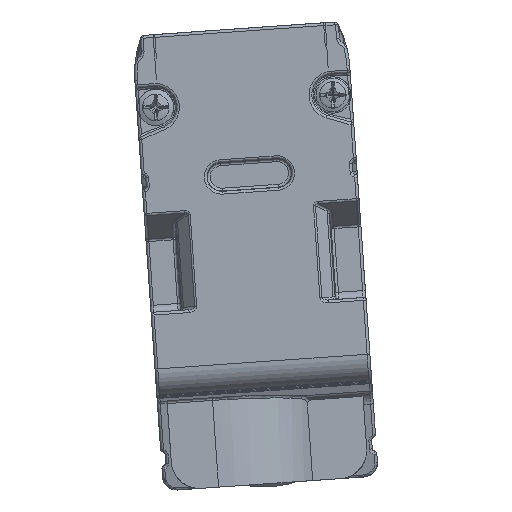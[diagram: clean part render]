
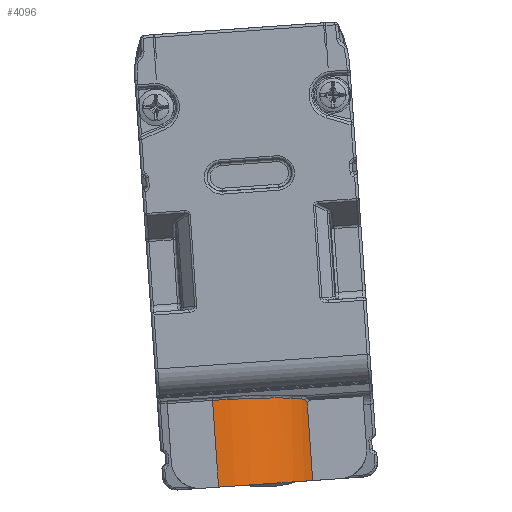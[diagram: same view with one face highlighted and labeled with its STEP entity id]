
A CAD part, front view. The second image highlights one B-rep face of the part: STEP entity #4096.
In plain terms, the highlighted cylindrical face has radius 7.5 mm (diameter 15 mm), a partial arc.
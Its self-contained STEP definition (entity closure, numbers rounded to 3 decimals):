
#753=ELLIPSE('',#24183,7.53,7.5);
#1221=B_SPLINE_CURVE_WITH_KNOTS('',3,(#43533,#43534,#43535,#43536,#43537,
#43538,#43539),.UNSPECIFIED.,.F.,.F.,(4,3,4),(0.,0.485,1.),.UNSPECIFIED.);
#1564=CYLINDRICAL_SURFACE('',#24185,7.5);
#2856=CIRCLE('',#24184,7.5);
#4096=ADVANCED_FACE('',(#5489),#1564,.T.);
#5489=FACE_OUTER_BOUND('',#6585,.T.);
#6585=EDGE_LOOP('',(#11035,#11036,#11037,#11038,#11039));
#11035=ORIENTED_EDGE('',*,*,#17917,.T.);
#11036=ORIENTED_EDGE('',*,*,#17918,.T.);
#11037=ORIENTED_EDGE('',*,*,#17919,.T.);
#11038=ORIENTED_EDGE('',*,*,#17920,.T.);
#11039=ORIENTED_EDGE('',*,*,#17921,.F.);
#14618=VERTEX_POINT('',#43531);
#14619=VERTEX_POINT('',#43532);
#14620=VERTEX_POINT('',#43540);
#14621=VERTEX_POINT('',#43542);
#14622=VERTEX_POINT('',#43544);
#17917=EDGE_CURVE('',#14618,#14619,#20183,.T.);
#17918=EDGE_CURVE('',#14619,#14620,#1221,.T.);
#17919=EDGE_CURVE('',#14620,#14621,#753,.T.);
#17920=EDGE_CURVE('',#14621,#14622,#20184,.T.);
#17921=EDGE_CURVE('',#14618,#14622,#2856,.T.);
#20183=LINE('',#43530,#21847);
#20184=LINE('',#43543,#21848);
#21847=VECTOR('',#29563,1.);
#21848=VECTOR('',#29566,1.);
#24183=AXIS2_PLACEMENT_3D('',#43541,#29564,#29565);
#24184=AXIS2_PLACEMENT_3D('',#43545,#29567,#29568);
#24185=AXIS2_PLACEMENT_3D('',#43546,#29569,#29570);
#29563=DIRECTION('',(-0.07,0.,0.998));
#29564=DIRECTION('',(0.069,-0.089,-0.994));
#29565=DIRECTION('',(0.006,0.996,-0.089));
#29566=DIRECTION('',(0.07,0.,-0.998));
#29567=DIRECTION('',(0.07,0.,-0.998));
#29568=DIRECTION('',(0.998,0.,0.07));
#29569=DIRECTION('',(0.07,0.,-0.998));
#29570=DIRECTION('',(0.,-1.,0.));
#43530=CARTESIAN_POINT('',(-40.701,-350.597,14.888));
#43531=CARTESIAN_POINT('',(-40.701,-350.597,14.888));
#43532=CARTESIAN_POINT('',(-41.088,-350.597,20.435));
#43533=CARTESIAN_POINT('',(-41.088,-350.597,20.435));
#43534=CARTESIAN_POINT('',(-41.139,-350.686,20.528));
#43535=CARTESIAN_POINT('',(-41.198,-350.793,20.603));
#43536=CARTESIAN_POINT('',(-41.263,-350.905,20.654));
#43537=CARTESIAN_POINT('',(-41.332,-351.024,20.708));
#43538=CARTESIAN_POINT('',(-41.408,-351.152,20.738));
#43539=CARTESIAN_POINT('',(-41.487,-351.278,20.743));
#43540=CARTESIAN_POINT('',(-41.487,-351.278,20.743));
#43541=CARTESIAN_POINT('',(-47.816,-347.318,19.944));
#43542=CARTESIAN_POINT('',(-47.863,-354.818,20.616));
#43543=CARTESIAN_POINT('',(-47.667,-354.818,17.815));
#43544=CARTESIAN_POINT('',(-47.43,-354.818,14.418));
#43545=CARTESIAN_POINT('',(-47.43,-347.318,14.418));
#43546=CARTESIAN_POINT('',(-52.434,-347.318,85.982));
